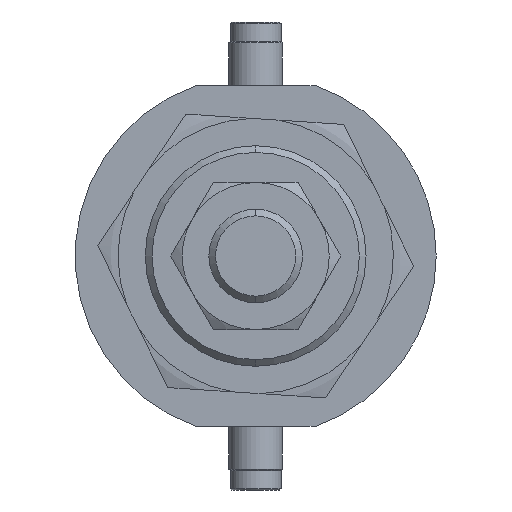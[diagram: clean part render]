
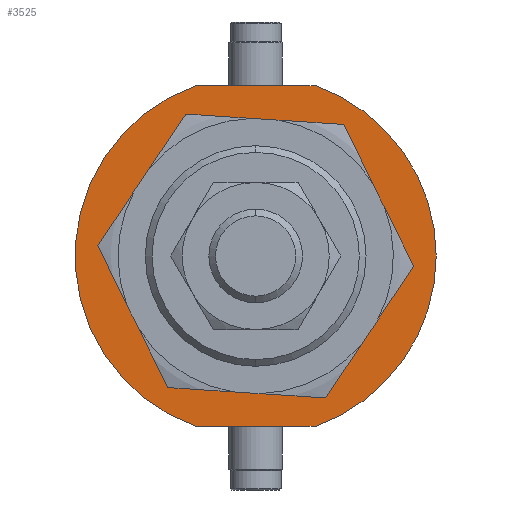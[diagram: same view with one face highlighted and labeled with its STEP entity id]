
A CAD part, left-side view. The second image highlights one B-rep face of the part: STEP entity #3525.
In plain terms, the highlighted planar face has unit normal (-1, 0, 0) as drawn and (0, 1, 0) by its records, which use the part's own axes.
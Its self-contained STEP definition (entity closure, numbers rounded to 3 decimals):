
#52 = DIRECTION ( 'NONE',  ( 0., 0., 1. ) ) ;
#129 = CARTESIAN_POINT ( 'NONE',  ( 0., 4.5, 27. ) ) ;
#163 = FACE_BOUND ( 'NONE', #1042, .T. ) ;
#258 = DIRECTION ( 'NONE',  ( 0., 0., 1. ) ) ;
#378 = EDGE_CURVE ( 'NONE', #2053, #3482, #2844, .T. ) ;
#404 = VERTEX_POINT ( 'NONE', #3885 ) ;
#615 = CARTESIAN_POINT ( 'NONE',  ( 25.5, 4.5, 8.874 ) ) ;
#660 = ORIENTED_EDGE ( 'NONE', *, *, #2418, .T. ) ;
#706 = DIRECTION ( 'NONE',  ( 0., 0., -1. ) ) ;
#751 = DIRECTION ( 'NONE',  ( 0., 1., 0. ) ) ;
#871 = CIRCLE ( 'NONE', #2529, 16.5 ) ;
#934 = ORIENTED_EDGE ( 'NONE', *, *, #378, .T. ) ;
#982 = DIRECTION ( 'NONE',  ( 0., 1., 0. ) ) ;
#1042 = EDGE_LOOP ( 'NONE', ( #4044, #2062 ) ) ;
#1050 = ORIENTED_EDGE ( 'NONE', *, *, #3699, .T. ) ;
#1124 = VECTOR ( 'NONE', #3184, 1000. ) ;
#1152 = EDGE_CURVE ( 'NONE', #404, #1210, #1786, .T. ) ;
#1153 = VERTEX_POINT ( 'NONE', #615 ) ;
#1175 = CARTESIAN_POINT ( 'NONE',  ( 25.5, 4.5, -8.874 ) ) ;
#1210 = VERTEX_POINT ( 'NONE', #3779 ) ;
#1260 = CIRCLE ( 'NONE', #1680, 27. ) ;
#1300 = DIRECTION ( 'NONE',  ( 0., 0., 1. ) ) ;
#1334 = AXIS2_PLACEMENT_3D ( 'NONE', #1960, #982, #1300 ) ;
#1344 = VERTEX_POINT ( 'NONE', #129 ) ;
#1414 = CIRCLE ( 'NONE', #2286, 27. ) ;
#1647 = DIRECTION ( 'NONE',  ( 0., 1., 0. ) ) ;
#1680 = AXIS2_PLACEMENT_3D ( 'NONE', #1725, #751, #3001 ) ;
#1725 = CARTESIAN_POINT ( 'NONE',  ( 0., 4.5, 0. ) ) ;
#1743 = EDGE_CURVE ( 'NONE', #3058, #1344, #1414, .T. ) ;
#1786 = CIRCLE ( 'NONE', #2732, 16.5 ) ;
#1890 = ORIENTED_EDGE ( 'NONE', *, *, #1743, .T. ) ;
#1960 = CARTESIAN_POINT ( 'NONE',  ( 0., 4.5, 0. ) ) ;
#2053 = VERTEX_POINT ( 'NONE', #1175 ) ;
#2062 = ORIENTED_EDGE ( 'NONE', *, *, #1152, .F. ) ;
#2087 = LINE ( 'NONE', #2553, #1124 ) ;
#2122 = DIRECTION ( 'NONE',  ( 0., 0., 1. ) ) ;
#2237 = AXIS2_PLACEMENT_3D ( 'NONE', #2803, #2758, #2122 ) ;
#2286 = AXIS2_PLACEMENT_3D ( 'NONE', #3420, #3738, #258 ) ;
#2337 = CARTESIAN_POINT ( 'NONE',  ( 0., 4.5, 0. ) ) ;
#2418 = EDGE_CURVE ( 'NONE', #1344, #1153, #1260, .T. ) ;
#2529 = AXIS2_PLACEMENT_3D ( 'NONE', #2337, #1647, #52 ) ;
#2553 = CARTESIAN_POINT ( 'NONE',  ( -25.5, 4.5, -8.874 ) ) ;
#2568 = DIRECTION ( 'NONE',  ( 0., 0., 1. ) ) ;
#2725 = VECTOR ( 'NONE', #706, 1000. ) ;
#2732 = AXIS2_PLACEMENT_3D ( 'NONE', #3802, #3173, #2568 ) ;
#2758 = DIRECTION ( 'NONE',  ( 0., 1., 0. ) ) ;
#2803 = CARTESIAN_POINT ( 'NONE',  ( 0., 4.5, 0. ) ) ;
#2830 = EDGE_CURVE ( 'NONE', #3482, #3058, #2087, .T. ) ;
#2844 = CIRCLE ( 'NONE', #1334, 27. ) ;
#2960 = ORIENTED_EDGE ( 'NONE', *, *, #2830, .T. ) ;
#3001 = DIRECTION ( 'NONE',  ( 0., 0., 1. ) ) ;
#3028 = EDGE_CURVE ( 'NONE', #1210, #404, #871, .T. ) ;
#3058 = VERTEX_POINT ( 'NONE', #3271 ) ;
#3173 = DIRECTION ( 'NONE',  ( 0., 1., 0. ) ) ;
#3184 = DIRECTION ( 'NONE',  ( 0., 0., 1. ) ) ;
#3220 = FACE_OUTER_BOUND ( 'NONE', #3394, .T. ) ;
#3271 = CARTESIAN_POINT ( 'NONE',  ( -25.5, 4.5, 8.874 ) ) ;
#3367 = PLANE ( 'NONE',  #2237 ) ;
#3394 = EDGE_LOOP ( 'NONE', ( #934, #2960, #1890, #660, #1050 ) ) ;
#3397 = CARTESIAN_POINT ( 'NONE',  ( -25.5, 4.5, -8.874 ) ) ;
#3420 = CARTESIAN_POINT ( 'NONE',  ( 0., 4.5, 0. ) ) ;
#3482 = VERTEX_POINT ( 'NONE', #3397 ) ;
#3525 = ADVANCED_FACE ( 'NONE', ( #163, #3220 ), #3367, .T. ) ;
#3568 = CARTESIAN_POINT ( 'NONE',  ( 25.5, 4.5, -8.874 ) ) ;
#3657 = LINE ( 'NONE', #3568, #2725 ) ;
#3699 = EDGE_CURVE ( 'NONE', #1153, #2053, #3657, .T. ) ;
#3738 = DIRECTION ( 'NONE',  ( 0., 1., 0. ) ) ;
#3779 = CARTESIAN_POINT ( 'NONE',  ( 0., 4.5, 16.5 ) ) ;
#3802 = CARTESIAN_POINT ( 'NONE',  ( 0., 4.5, 0. ) ) ;
#3885 = CARTESIAN_POINT ( 'NONE',  ( 0., 4.5, -16.5 ) ) ;
#4044 = ORIENTED_EDGE ( 'NONE', *, *, #3028, .F. ) ;
